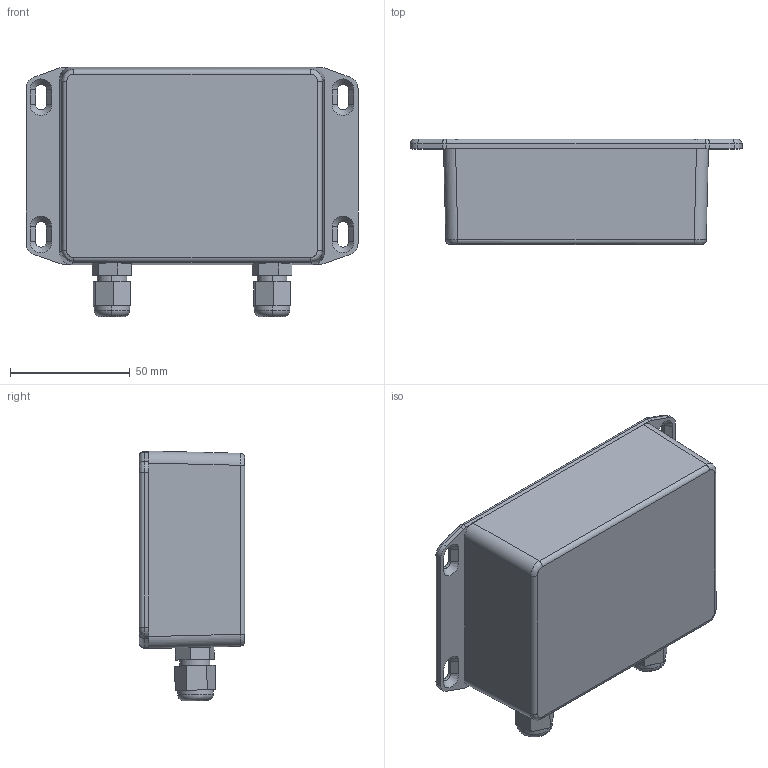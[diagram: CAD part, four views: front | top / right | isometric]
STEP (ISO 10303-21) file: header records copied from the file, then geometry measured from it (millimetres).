
FILE_DESCRIPTION (( 'STEP AP214' ), '1' );
FILE_NAME ('Motor noise suppressor.STEP', '2017-03-22T21:06:08', ( '' ), ( '' ), 'SwSTEP 2.0', 'SolidWorks 2014', '' );
FILE_SCHEMA (( 'AUTOMOTIVE_DESIGN' ));
Length unit declared in the file: millimetre
Products named in the file (6): cable gland; 1590SFL; SC530 (screw #6-32X 1_2''''FH); 1590S FLANGE LID; 1590S Box; Motor noise suppressor
Assembly tree (9 placements, depth 3):
  Motor noise suppressor
    1590SFL
      1590S Box
      1590S FLANGE LID
      SC530 (screw #6-32X 1_2''''FH)  x4
    cable gland  x2
Bounding box: 138.5 x 44 x 104.26 mm (x, y, z)
Volume: 96468.3 mm3; surface area: 77149.1 mm2
Topology: 8 solids, 8 shells, 597 faces, 1517 edges, 966 vertices
Faces by surface type: plane 298, cylinder 136, bspline 119, cone 40, torus 4
Entity records: 21353 total; most frequent: CARTESIAN_POINT 5190, ORIENTED_EDGE 2454, DIRECTION 1995, EDGE_CURVE 1227, VERTEX_POINT 780, VECTOR 737, LINE 737, AXIS2_PLACEMENT_3D 629
